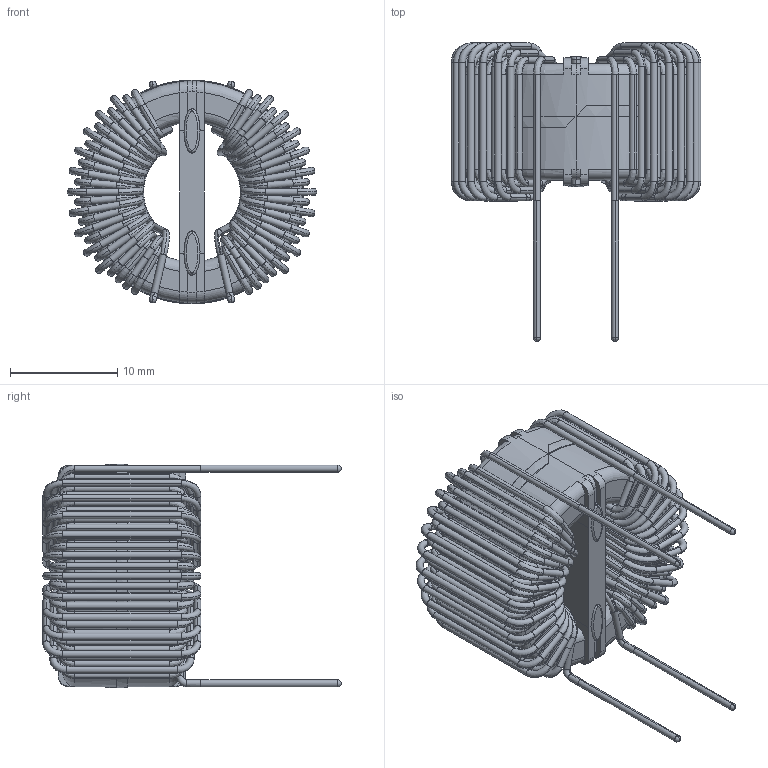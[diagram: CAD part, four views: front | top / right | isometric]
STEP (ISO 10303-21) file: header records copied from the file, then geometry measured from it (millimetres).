
FILE_DESCRIPTION (( 'STEP AP203' ), '1' );
FILE_NAME ('GN-H-802U-3A.STEP', '2020-08-13T06:03:48', ( 'Windows User' ), ( '' ), 'SwSTEP 2.0', 'SolidWorks 2015', '' );
FILE_SCHEMA (( 'CONFIG_CONTROL_DESIGN' ));
Length unit declared in the file: millimetre
Products named in the file (1): GN-H-802U-3A
Bounding box: 23.29 x 27.83 x 20.89 mm (x, y, z)
Volume: 3378.6 mm3; surface area: 7213.4 mm2
Topology: 12 solids, 12 shells, 1338 faces, 4024 edges, 2700 vertices
Faces by surface type: cylinder 610, torus 506, bspline 136, plane 86
Entity records: 58087 total; most frequent: CARTESIAN_POINT 20011, DIRECTION 8986, ORIENTED_EDGE 8040, AXIS2_PLACEMENT_3D 4105, EDGE_CURVE 4020, CIRCLE 2904, VERTEX_POINT 2698, EDGE_LOOP 1420
